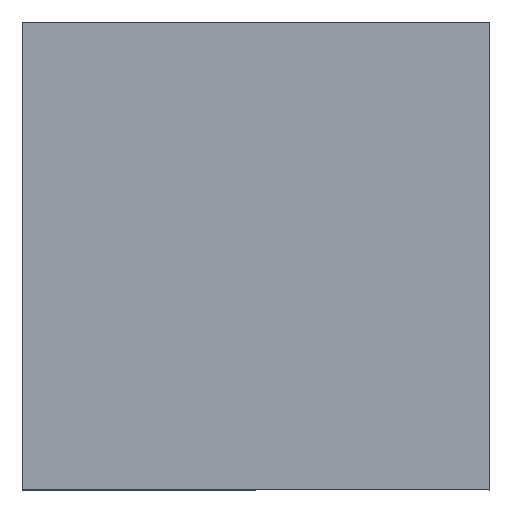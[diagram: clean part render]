
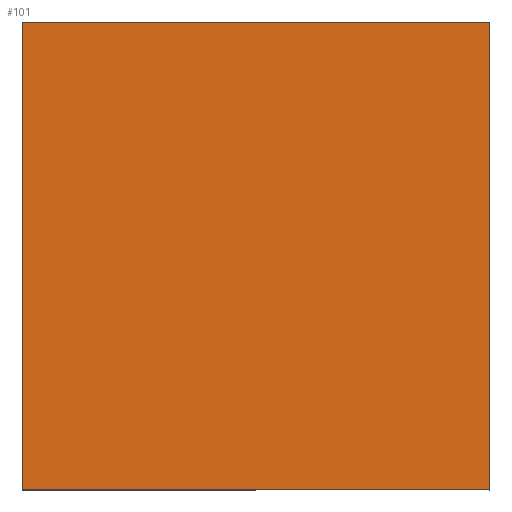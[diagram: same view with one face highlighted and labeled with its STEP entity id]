
A CAD part, top view. The second image highlights one B-rep face of the part: STEP entity #101.
In plain terms, the highlighted planar face has unit normal (0, 0, 1).
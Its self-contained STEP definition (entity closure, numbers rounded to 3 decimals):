
#73 = VERTEX_POINT ( 'NONE', #362 ) ;
#82 = LINE ( 'NONE', #800, #513 ) ;
#85 = CARTESIAN_POINT ( 'NONE',  ( -12.5, 12.5, 7.75 ) ) ;
#91 = LINE ( 'NONE', #85, #108 ) ;
#98 = DIRECTION ( 'NONE',  ( 0., 1., 0. ) ) ;
#101 = ADVANCED_FACE ( 'NONE', ( #705 ), #481, .T. ) ;
#108 = VECTOR ( 'NONE', #526, 1000. ) ;
#159 = LINE ( 'NONE', #167, #850 ) ;
#167 = CARTESIAN_POINT ( 'NONE',  ( -12.5, 12.5, 7.75 ) ) ;
#225 = DIRECTION ( 'NONE',  ( -1., 0., 0. ) ) ;
#333 = AXIS2_PLACEMENT_3D ( 'NONE', #641, #346, #700 ) ;
#336 = ORIENTED_EDGE ( 'NONE', *, *, #639, .T. ) ;
#346 = DIRECTION ( 'NONE',  ( 0., 0., 1. ) ) ;
#362 = CARTESIAN_POINT ( 'NONE',  ( -12.5, -12.5, 7.75 ) ) ;
#367 = DIRECTION ( 'NONE',  ( 1., 0., 0. ) ) ;
#466 = EDGE_CURVE ( 'NONE', #73, #889, #82, .T. ) ;
#481 = PLANE ( 'NONE',  #333 ) ;
#513 = VECTOR ( 'NONE', #367, 1000. ) ;
#526 = DIRECTION ( 'NONE',  ( 0., -1., 0. ) ) ;
#555 = CARTESIAN_POINT ( 'NONE',  ( -12.5, 12.5, 7.75 ) ) ;
#568 = VECTOR ( 'NONE', #98, 1000. ) ;
#575 = EDGE_LOOP ( 'NONE', ( #336, #718, #642, #652 ) ) ;
#594 = CARTESIAN_POINT ( 'NONE',  ( 12.5, 12.5, 7.75 ) ) ;
#600 = LINE ( 'NONE', #738, #568 ) ;
#635 = VERTEX_POINT ( 'NONE', #594 ) ;
#639 = EDGE_CURVE ( 'NONE', #822, #73, #91, .T. ) ;
#641 = CARTESIAN_POINT ( 'NONE',  ( 0., 0., 7.75 ) ) ;
#642 = ORIENTED_EDGE ( 'NONE', *, *, #742, .T. ) ;
#644 = EDGE_CURVE ( 'NONE', #635, #822, #159, .T. ) ;
#652 = ORIENTED_EDGE ( 'NONE', *, *, #644, .T. ) ;
#700 = DIRECTION ( 'NONE',  ( 1., 0., 0. ) ) ;
#705 = FACE_OUTER_BOUND ( 'NONE', #575, .T. ) ;
#718 = ORIENTED_EDGE ( 'NONE', *, *, #466, .T. ) ;
#738 = CARTESIAN_POINT ( 'NONE',  ( 12.5, 12.5, 7.75 ) ) ;
#742 = EDGE_CURVE ( 'NONE', #889, #635, #600, .T. ) ;
#800 = CARTESIAN_POINT ( 'NONE',  ( -12.5, -12.5, 7.75 ) ) ;
#822 = VERTEX_POINT ( 'NONE', #555 ) ;
#850 = VECTOR ( 'NONE', #225, 1000. ) ;
#889 = VERTEX_POINT ( 'NONE', #917 ) ;
#917 = CARTESIAN_POINT ( 'NONE',  ( 12.5, -12.5, 7.75 ) ) ;
